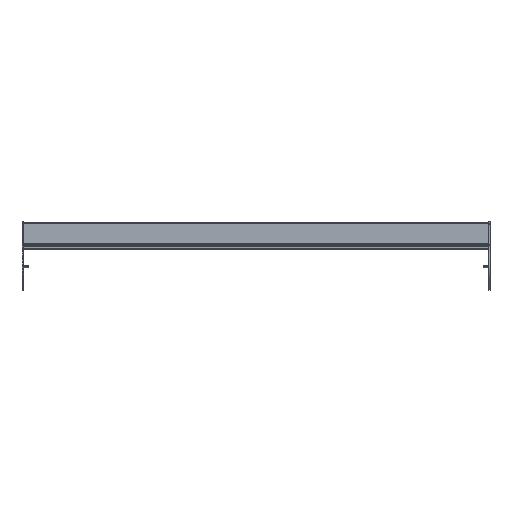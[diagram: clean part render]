
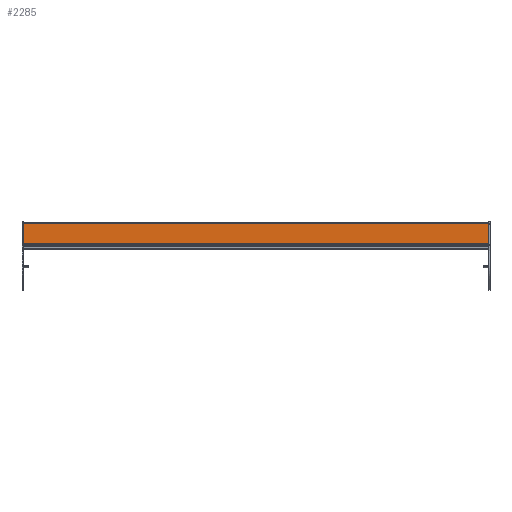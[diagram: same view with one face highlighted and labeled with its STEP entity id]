
A CAD part, top view. The second image highlights one B-rep face of the part: STEP entity #2285.
In plain terms, the highlighted planar face has unit normal (0, 0, 1) as drawn and (1, 0, 0) by its records, which use the part's own axes.
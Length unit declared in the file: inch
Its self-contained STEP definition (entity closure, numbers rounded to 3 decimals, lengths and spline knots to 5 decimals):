
#197=DIRECTION('',(0.,1.,0.));
#198=VECTOR('',#197,1.81445);
#199=CARTESIAN_POINT('',(0.683,-0.84545,-21.118));
#200=LINE('',#199,#198);
#303=DIRECTION('',(0.,1.,0.));
#304=VECTOR('',#303,1.81445);
#305=CARTESIAN_POINT('',(0.683,-0.84545,21.118));
#306=LINE('',#305,#304);
#646=DIRECTION('',(0.,0.,1.));
#647=VECTOR('',#646,42.236);
#648=CARTESIAN_POINT('',(0.683,0.969,-21.118));
#649=LINE('',#648,#647);
#659=DIRECTION('',(0.,0.,-1.));
#660=VECTOR('',#659,42.236);
#661=CARTESIAN_POINT('',(0.683,-0.84545,21.118));
#662=LINE('',#661,#660);
#1270=CARTESIAN_POINT('',(0.683,-0.84545,-21.118));
#1271=CARTESIAN_POINT('',(0.683,0.969,-21.118));
#1272=VERTEX_POINT('',#1270);
#1273=VERTEX_POINT('',#1271);
#1274=CARTESIAN_POINT('',(0.683,-0.84545,21.118));
#1275=CARTESIAN_POINT('',(0.683,0.969,21.118));
#1276=VERTEX_POINT('',#1274);
#1277=VERTEX_POINT('',#1275);
#2273=CARTESIAN_POINT('',(0.683,-0.86334,-21.118));
#2274=DIRECTION('',(1.,0.,0.));
#2275=DIRECTION('',(0.,1.,0.));
#2276=AXIS2_PLACEMENT_3D('',#2273,#2274,#2275);
#2277=PLANE('',#2276);
#2278=ORIENTED_EDGE('',*,*,#1631,.F.);
#2280=ORIENTED_EDGE('',*,*,#2279,.F.);
#2281=ORIENTED_EDGE('',*,*,#1734,.T.);
#2282=ORIENTED_EDGE('',*,*,#2266,.F.);
#2283=EDGE_LOOP('',(#2278,#2280,#2281,#2282));
#2284=FACE_OUTER_BOUND('',#2283,.F.);
#1631=EDGE_CURVE('',#1272,#1273,#200,.T.);
#1734=EDGE_CURVE('',#1276,#1277,#306,.T.);
#2266=EDGE_CURVE('',#1273,#1277,#649,.T.);
#2279=EDGE_CURVE('',#1276,#1272,#662,.T.);
#2285=ADVANCED_FACE('',(#2284),#2277,.T.);
